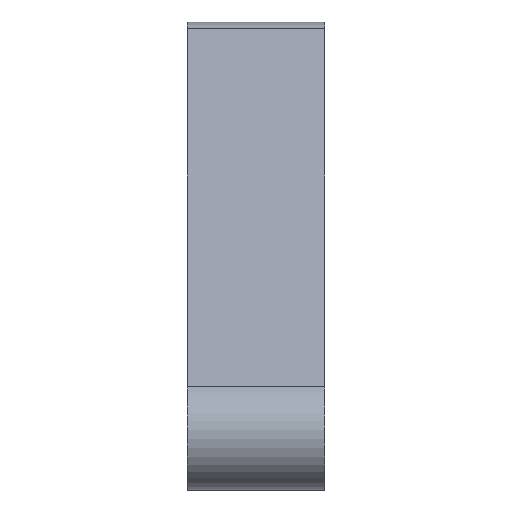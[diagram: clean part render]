
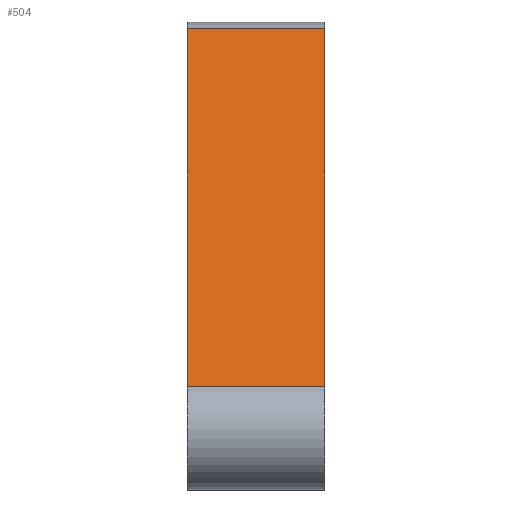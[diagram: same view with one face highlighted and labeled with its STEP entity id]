
A CAD part, front view. The second image highlights one B-rep face of the part: STEP entity #504.
In plain terms, the highlighted planar face has unit normal (0, -0.476, 0.879).
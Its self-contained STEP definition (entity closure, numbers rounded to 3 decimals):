
#164 = VERTEX_POINT('',#165);
#165 = CARTESIAN_POINT('',(25.,-134.763,18.793));
#172 = EDGE_CURVE('',#173,#164,#175,.T.);
#173 = VERTEX_POINT('',#174);
#174 = CARTESIAN_POINT('',(0.,-134.763,18.793));
#175 = LINE('',#176,#177);
#176 = CARTESIAN_POINT('',(-250.,-134.763,18.793));
#177 = VECTOR('',#178,1.);
#178 = DIRECTION('',(1.,0.,0.));
#504 = ADVANCED_FACE('',(#505),#530,.F.);
#505 = FACE_BOUND('',#506,.F.);
#506 = EDGE_LOOP('',(#507,#515,#523,#529));
#507 = ORIENTED_EDGE('',*,*,#508,.F.);
#508 = EDGE_CURVE('',#509,#173,#511,.T.);
#509 = VERTEX_POINT('',#510);
#510 = CARTESIAN_POINT('',(0.,-14.763,83.793));
#511 = LINE('',#512,#513);
#512 = CARTESIAN_POINT('',(0.,0.,91.789));
#513 = VECTOR('',#514,1.);
#514 = DIRECTION('',(0.,-0.879,-0.476));
#515 = ORIENTED_EDGE('',*,*,#516,.T.);
#516 = EDGE_CURVE('',#509,#517,#519,.T.);
#517 = VERTEX_POINT('',#518);
#518 = CARTESIAN_POINT('',(25.,-14.763,83.793));
#519 = LINE('',#520,#521);
#520 = CARTESIAN_POINT('',(-250.,-14.763,83.793));
#521 = VECTOR('',#522,1.);
#522 = DIRECTION('',(1.,0.,0.));
#523 = ORIENTED_EDGE('',*,*,#524,.T.);
#524 = EDGE_CURVE('',#517,#164,#525,.T.);
#525 = LINE('',#526,#527);
#526 = CARTESIAN_POINT('',(25.,0.,91.789));
#527 = VECTOR('',#528,1.);
#528 = DIRECTION('',(0.,-0.879,-0.476));
#529 = ORIENTED_EDGE('',*,*,#172,.F.);
#530 = PLANE('',#531);
#531 = AXIS2_PLACEMENT_3D('',#532,#533,#534);
#532 = CARTESIAN_POINT('',(12.5,-84.729,45.895));
#533 = DIRECTION('',(0.,0.476,-0.879)
  );
#534 = DIRECTION('',(0.,-0.879,-0.476
    ));
